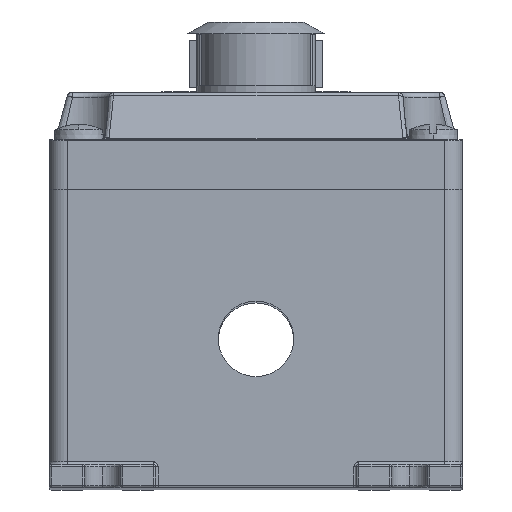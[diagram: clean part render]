
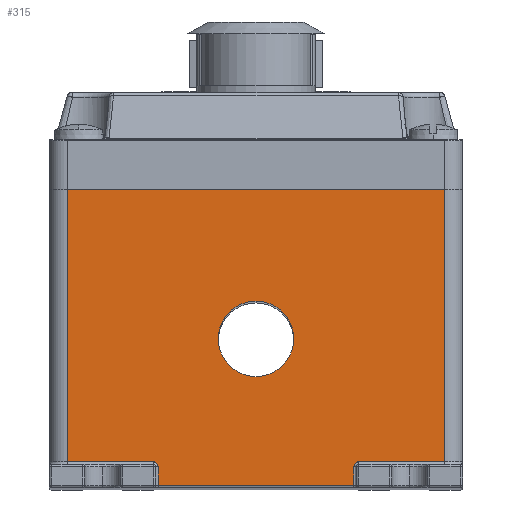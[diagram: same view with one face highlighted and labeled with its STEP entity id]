
A CAD part, top view. The second image highlights one B-rep face of the part: STEP entity #315.
In plain terms, the highlighted planar face has unit normal (0, 0, 1).
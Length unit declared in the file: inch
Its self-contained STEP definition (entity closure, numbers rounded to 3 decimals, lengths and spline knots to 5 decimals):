
#315 = ADVANCED_FACE ( 'NONE', ( #8452, #10821 ), #11160, .F. ) ;
#398 = AXIS2_PLACEMENT_3D ( 'NONE', #8280, #16492, #16147 ) ;
#433 = CARTESIAN_POINT ( 'NONE',  ( 2., 0.275, 5.9375 ) ) ;
#546 = DIRECTION ( 'NONE',  ( 0., 0., -1. ) ) ;
#921 = ORIENTED_EDGE ( 'NONE', *, *, #14237, .F. ) ;
#1133 = CARTESIAN_POINT ( 'NONE',  ( 2., 3.1575, 5.9375 ) ) ;
#1406 = DIRECTION ( 'NONE',  ( 0., 0., 1. ) ) ;
#1435 = VERTEX_POINT ( 'NONE', #5014 ) ;
#1676 = VERTEX_POINT ( 'NONE', #4042 ) ;
#2268 = ORIENTED_EDGE ( 'NONE', *, *, #12756, .T. ) ;
#2361 = DIRECTION ( 'NONE',  ( 0., 0., 1. ) ) ;
#2440 = CARTESIAN_POINT ( 'NONE',  ( 1.0875, 0.225, 5.9375 ) ) ;
#2818 = LINE ( 'NONE', #433, #8096 ) ;
#2828 = VERTEX_POINT ( 'NONE', #16980 ) ;
#3137 = AXIS2_PLACEMENT_3D ( 'NONE', #11666, #546, #16987 ) ;
#3234 = VECTOR ( 'NONE', #12622, 39.37008 ) ;
#3266 = CARTESIAN_POINT ( 'NONE',  ( -1.0375, 0.025, 5.9375 ) ) ;
#3699 = VECTOR ( 'NONE', #13200, 39.37008 ) ;
#3831 = CIRCLE ( 'NONE', #13083, 0.4 ) ;
#3903 = ORIENTED_EDGE ( 'NONE', *, *, #16934, .F. ) ;
#4042 = CARTESIAN_POINT ( 'NONE',  ( 1.0875, 0.275, 5.9375 ) ) ;
#4456 = DIRECTION ( 'NONE',  ( 0., 1., 0. ) ) ;
#4751 = EDGE_LOOP ( 'NONE', ( #921, #7698, #9101, #5712, #14196, #16059, #3903, #15398, #9017, #10266 ) ) ;
#4843 = VERTEX_POINT ( 'NONE', #9383 ) ;
#5014 = CARTESIAN_POINT ( 'NONE',  ( 1.0375, 0.025, 5.9375 ) ) ;
#5542 = CARTESIAN_POINT ( 'NONE',  ( -2., 3.1575, 5.9375 ) ) ;
#5617 = LINE ( 'NONE', #12362, #3234 ) ;
#5712 = ORIENTED_EDGE ( 'NONE', *, *, #8565, .F. ) ;
#5894 = EDGE_CURVE ( 'NONE', #6965, #2828, #6605, .T. ) ;
#6193 = CARTESIAN_POINT ( 'NONE',  ( -1.0375, 0.225, 5.9375 ) ) ;
#6390 = LINE ( 'NONE', #17072, #15622 ) ;
#6525 = DIRECTION ( 'NONE',  ( 0., 0., -1. ) ) ;
#6587 = VERTEX_POINT ( 'NONE', #6894 ) ;
#6605 = LINE ( 'NONE', #5542, #14241 ) ;
#6894 = CARTESIAN_POINT ( 'NONE',  ( 1.0375, 0.225, 5.9375 ) ) ;
#6965 = VERTEX_POINT ( 'NONE', #13601 ) ;
#7416 = LINE ( 'NONE', #8570, #15747 ) ;
#7679 = EDGE_CURVE ( 'NONE', #2828, #9717, #7416, .T. ) ;
#7698 = ORIENTED_EDGE ( 'NONE', *, *, #14044, .T. ) ;
#7812 = EDGE_CURVE ( 'NONE', #16310, #1435, #9255, .T. ) ;
#7875 = AXIS2_PLACEMENT_3D ( 'NONE', #15153, #1406, #12186 ) ;
#7933 = VECTOR ( 'NONE', #14531, 39.37008 ) ;
#8071 = EDGE_CURVE ( 'NONE', #12682, #4843, #10427, .T. ) ;
#8096 = VECTOR ( 'NONE', #16475, 39.37008 ) ;
#8280 = CARTESIAN_POINT ( 'NONE',  ( -2.1875, 3.1575, 5.9375 ) ) ;
#8452 = FACE_BOUND ( 'NONE', #15703, .T. ) ;
#8565 = EDGE_CURVE ( 'NONE', #6965, #14192, #10511, .T. ) ;
#8570 = CARTESIAN_POINT ( 'NONE',  ( -2.1875, 0.275, 5.9375 ) ) ;
#9017 = ORIENTED_EDGE ( 'NONE', *, *, #7812, .T. ) ;
#9063 = DIRECTION ( 'NONE',  ( -1., 0., 0. ) ) ;
#9101 = ORIENTED_EDGE ( 'NONE', *, *, #14308, .T. ) ;
#9255 = LINE ( 'NONE', #10658, #3699 ) ;
#9383 = CARTESIAN_POINT ( 'NONE',  ( -0.4, 1.57875, 5.9375 ) ) ;
#9559 = CIRCLE ( 'NONE', #7875, 0.05 ) ;
#9717 = VERTEX_POINT ( 'NONE', #14731 ) ;
#10266 = ORIENTED_EDGE ( 'NONE', *, *, #11786, .T. ) ;
#10427 = CIRCLE ( 'NONE', #3137, 0.4 ) ;
#10511 = LINE ( 'NONE', #15831, #7933 ) ;
#10658 = CARTESIAN_POINT ( 'NONE',  ( 1.0625, 0.025, 5.9375 ) ) ;
#10821 = FACE_OUTER_BOUND ( 'NONE', #4751, .T. ) ;
#10823 = ORIENTED_EDGE ( 'NONE', *, *, #8071, .T. ) ;
#10826 = CARTESIAN_POINT ( 'NONE',  ( 2., 0.275, 5.9375 ) ) ;
#11160 = PLANE ( 'NONE',  #398 ) ;
#11666 = CARTESIAN_POINT ( 'NONE',  ( 0., 1.57875, 5.9375 ) ) ;
#11786 = EDGE_CURVE ( 'NONE', #1435, #6587, #5617, .T. ) ;
#12013 = LINE ( 'NONE', #14724, #16467 ) ;
#12186 = DIRECTION ( 'NONE',  ( -1., 0., 0. ) ) ;
#12255 = VERTEX_POINT ( 'NONE', #6193 ) ;
#12362 = CARTESIAN_POINT ( 'NONE',  ( 1.0375, 3.1575, 5.9375 ) ) ;
#12622 = DIRECTION ( 'NONE',  ( 0., 1., 0. ) ) ;
#12682 = VERTEX_POINT ( 'NONE', #13988 ) ;
#12756 = EDGE_CURVE ( 'NONE', #4843, #12682, #3831, .T. ) ;
#12885 = VERTEX_POINT ( 'NONE', #10826 ) ;
#12972 = DIRECTION ( 'NONE',  ( 0., -1., 0. ) ) ;
#13083 = AXIS2_PLACEMENT_3D ( 'NONE', #15710, #6525, #9063 ) ;
#13200 = DIRECTION ( 'NONE',  ( 1., 0., 0. ) ) ;
#13403 = AXIS2_PLACEMENT_3D ( 'NONE', #2440, #2361, #15849 ) ;
#13601 = CARTESIAN_POINT ( 'NONE',  ( -2., 3.1575, 5.9375 ) ) ;
#13670 = CIRCLE ( 'NONE', #13403, 0.05 ) ;
#13906 = DIRECTION ( 'NONE',  ( 1., 0., 0. ) ) ;
#13988 = CARTESIAN_POINT ( 'NONE',  ( 0.4, 1.57875, 5.9375 ) ) ;
#14044 = EDGE_CURVE ( 'NONE', #1676, #12885, #2818, .T. ) ;
#14192 = VERTEX_POINT ( 'NONE', #1133 ) ;
#14196 = ORIENTED_EDGE ( 'NONE', *, *, #5894, .T. ) ;
#14236 = EDGE_CURVE ( 'NONE', #12255, #16310, #12013, .T. ) ;
#14237 = EDGE_CURVE ( 'NONE', #1676, #6587, #13670, .T. ) ;
#14241 = VECTOR ( 'NONE', #14912, 39.37008 ) ;
#14308 = EDGE_CURVE ( 'NONE', #12885, #14192, #6390, .T. ) ;
#14531 = DIRECTION ( 'NONE',  ( 1., 0., 0. ) ) ;
#14724 = CARTESIAN_POINT ( 'NONE',  ( -1.0375, 3.1575, 5.9375 ) ) ;
#14731 = CARTESIAN_POINT ( 'NONE',  ( -1.0875, 0.275, 5.9375 ) ) ;
#14912 = DIRECTION ( 'NONE',  ( 0., -1., 0. ) ) ;
#15153 = CARTESIAN_POINT ( 'NONE',  ( -1.0875, 0.225, 5.9375 ) ) ;
#15398 = ORIENTED_EDGE ( 'NONE', *, *, #14236, .T. ) ;
#15622 = VECTOR ( 'NONE', #4456, 39.37008 ) ;
#15703 = EDGE_LOOP ( 'NONE', ( #2268, #10823 ) ) ;
#15710 = CARTESIAN_POINT ( 'NONE',  ( 0., 1.57875, 5.9375 ) ) ;
#15747 = VECTOR ( 'NONE', #13906, 39.37008 ) ;
#15831 = CARTESIAN_POINT ( 'NONE',  ( -2.1875, 3.1575, 5.9375 ) ) ;
#15849 = DIRECTION ( 'NONE',  ( -1., 0., 0. ) ) ;
#16059 = ORIENTED_EDGE ( 'NONE', *, *, #7679, .T. ) ;
#16147 = DIRECTION ( 'NONE',  ( -1., 0., 0. ) ) ;
#16310 = VERTEX_POINT ( 'NONE', #3266 ) ;
#16467 = VECTOR ( 'NONE', #12972, 39.37008 ) ;
#16475 = DIRECTION ( 'NONE',  ( 1., 0., 0. ) ) ;
#16492 = DIRECTION ( 'NONE',  ( 0., 0., -1. ) ) ;
#16934 = EDGE_CURVE ( 'NONE', #12255, #9717, #9559, .T. ) ;
#16980 = CARTESIAN_POINT ( 'NONE',  ( -2., 0.275, 5.9375 ) ) ;
#16987 = DIRECTION ( 'NONE',  ( -1., 0., 0. ) ) ;
#17072 = CARTESIAN_POINT ( 'NONE',  ( 2., 3.1575, 5.9375 ) ) ;
